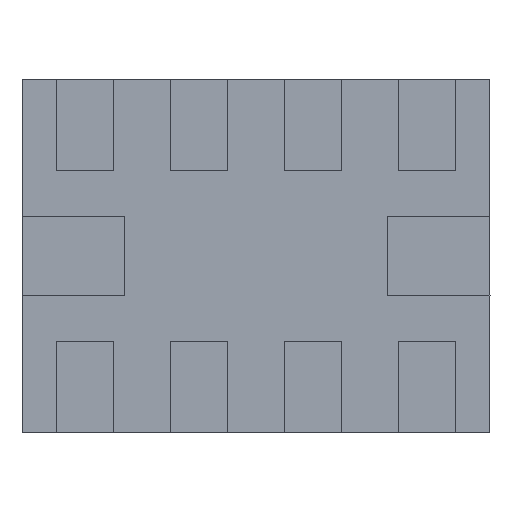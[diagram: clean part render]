
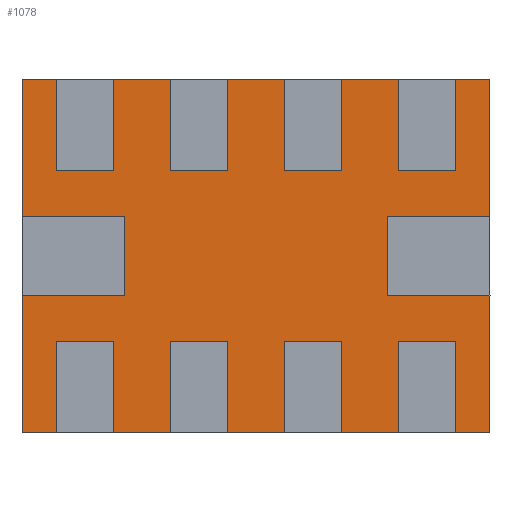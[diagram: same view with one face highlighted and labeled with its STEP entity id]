
A CAD part, front view. The second image highlights one B-rep face of the part: STEP entity #1078.
In plain terms, the highlighted planar face has unit normal (0, -1, 0).
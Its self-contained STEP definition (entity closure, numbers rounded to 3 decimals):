
#111=FACE_OUTER_BOUND('',#180,.T.);
#180=EDGE_LOOP('',(#935,#936,#937,#938));
#304=LINE('',#1726,#437);
#308=LINE('',#1734,#441);
#311=LINE('',#1740,#444);
#314=LINE('',#1745,#447);
#437=VECTOR('',#1426,10.);
#441=VECTOR('',#1432,10.);
#444=VECTOR('',#1437,10.);
#447=VECTOR('',#1442,10.);
#530=VERTEX_POINT('',#1724);
#531=VERTEX_POINT('',#1725);
#534=VERTEX_POINT('',#1733);
#536=VERTEX_POINT('',#1739);
#660=EDGE_CURVE('',#530,#531,#304,.T.);
#664=EDGE_CURVE('',#534,#530,#308,.T.);
#667=EDGE_CURVE('',#536,#534,#311,.T.);
#670=EDGE_CURVE('',#531,#536,#314,.T.);
#935=ORIENTED_EDGE('',*,*,#670,.F.);
#936=ORIENTED_EDGE('',*,*,#660,.F.);
#937=ORIENTED_EDGE('',*,*,#664,.F.);
#938=ORIENTED_EDGE('',*,*,#667,.F.);
#1010=PLANE('',#1173);
#1078=ADVANCED_FACE('',(#111),#1010,.F.);
#1173=AXIS2_PLACEMENT_3D('',#1748,#1446,#1447);
#1426=DIRECTION('',(1.,0.,0.));
#1432=DIRECTION('',(0.,0.,1.));
#1437=DIRECTION('',(-1.,0.,0.));
#1442=DIRECTION('',(0.,0.,-1.));
#1446=DIRECTION('center_axis',(0.,1.,0.));
#1447=DIRECTION('ref_axis',(1.,0.,0.));
#1724=CARTESIAN_POINT('',(-1.025,0.,0.775));
#1725=CARTESIAN_POINT('',(1.025,0.,0.775));
#1726=CARTESIAN_POINT('',(-1.025,0.,0.775));
#1733=CARTESIAN_POINT('',(-1.025,0.,-0.775));
#1734=CARTESIAN_POINT('',(-1.025,0.,-0.775));
#1739=CARTESIAN_POINT('',(1.025,0.,-0.775));
#1740=CARTESIAN_POINT('',(1.025,0.,-0.775));
#1745=CARTESIAN_POINT('',(1.025,0.,0.775));
#1748=CARTESIAN_POINT('Origin',(0.,0.,0.));
